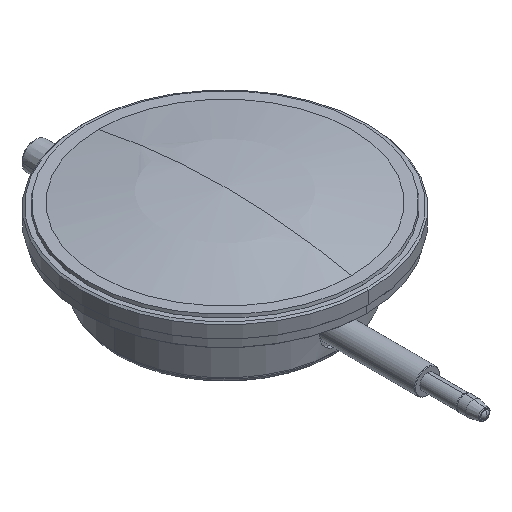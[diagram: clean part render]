
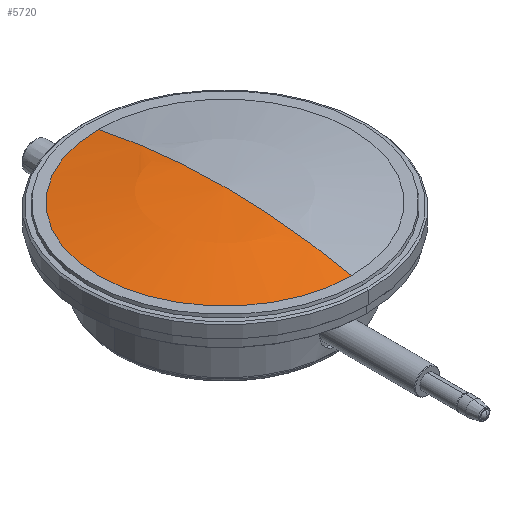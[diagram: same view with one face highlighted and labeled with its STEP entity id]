
A CAD part, isometric view. The second image highlights one B-rep face of the part: STEP entity #5720.
In plain terms, the highlighted spherical face has radius 193.926 mm.
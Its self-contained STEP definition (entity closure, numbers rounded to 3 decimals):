
#4080=CARTESIAN_POINT('',(0.,0.,5.999));
#4090=DIRECTION('',(0.,0.,-1.));
#4100=DIRECTION('',(0.,-1.,0.));
#4110=AXIS2_PLACEMENT_3D('',#4080,#4090,#4100);
#4120=CIRCLE('',#4110,40.616);
#4130=CARTESIAN_POINT('',(0.,-40.616,
5.999));
#4140=VERTEX_POINT('',#4130);
#4150=CARTESIAN_POINT('',(0.,40.616,
5.999));
#4160=VERTEX_POINT('',#4150);
#4170=EDGE_CURVE('',#4140,#4160,#4120,.T.);
#4340=CARTESIAN_POINT('',(0.,0.,-183.626));
#4350=DIRECTION('',(-1.,0.,0.));
#4360=DIRECTION('',(0.,1.,-0.));
#4370=AXIS2_PLACEMENT_3D('',#4340,#4350,#4360);
#4380=CIRCLE('',#4370,193.926);
#4390=CARTESIAN_POINT('',(0.,0.,
10.3));
#4400=VERTEX_POINT('',#4390);
#4410=EDGE_CURVE('',#4140,#4400,#4380,.T.);
#4430=EDGE_CURVE('',#4400,#4160,#4380,.T.);
#5620=CARTESIAN_POINT('',(0.,0.,-183.626));
#5630=DIRECTION('',(0.,0.,-1.));
#5640=DIRECTION('',(0.,-1.,0.));
#5650=AXIS2_PLACEMENT_3D('',#5620,#5630,#5640);
#5660=SPHERICAL_SURFACE('',#5650,193.926);
#5670=ORIENTED_EDGE('',*,*,#4170,.F.);
#5680=ORIENTED_EDGE('',*,*,#4430,.T.);
#5690=ORIENTED_EDGE('',*,*,#4410,.T.);
#5700=EDGE_LOOP('',(#5690,#5680,#5670));
#5710=FACE_OUTER_BOUND('',#5700,.T.);
#5720=ADVANCED_FACE('',(#5710),#5660,.T.);
